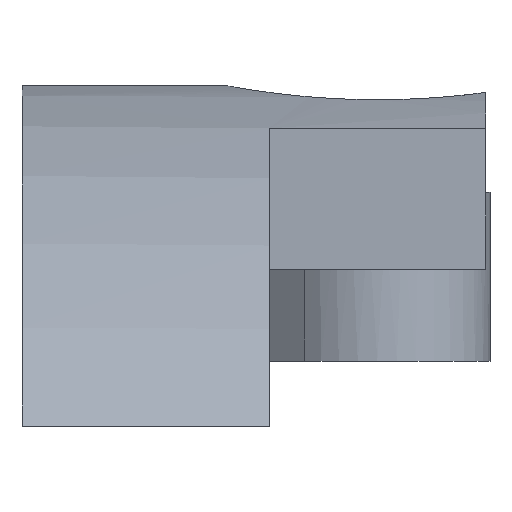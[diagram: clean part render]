
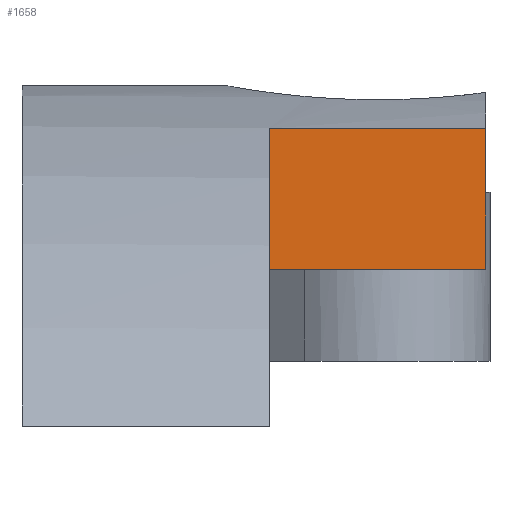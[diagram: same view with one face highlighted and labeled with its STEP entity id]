
A CAD part, front view. The second image highlights one B-rep face of the part: STEP entity #1658.
In plain terms, the highlighted planar face has unit normal (0, -1, 0).
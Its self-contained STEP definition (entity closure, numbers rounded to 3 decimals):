
#33 = CYLINDRICAL_SURFACE('',#34,18.85);
#34 = AXIS2_PLACEMENT_3D('',#35,#36,#37);
#35 = CARTESIAN_POINT('',(90.3,0.,0.));
#36 = DIRECTION('',(1.,0.,0.));
#37 = DIRECTION('',(-0.,0.,1.));
#84 = VERTEX_POINT('',#85);
#85 = CARTESIAN_POINT('',(96.,-6.,17.87));
#99 = PLANE('',#100);
#100 = AXIS2_PLACEMENT_3D('',#101,#102,#103);
#101 = CARTESIAN_POINT('',(96.,0.,0.));
#102 = DIRECTION('',(1.,0.,0.));
#103 = DIRECTION('',(-0.,0.,1.));
#111 = EDGE_CURVE('',#84,#112,#114,.T.);
#112 = VERTEX_POINT('',#113);
#113 = CARTESIAN_POINT('',(101.,-6.,17.87));
#114 = SURFACE_CURVE('',#115,(#119,#125),.PCURVE_S1.);
#115 = LINE('',#116,#117);
#116 = CARTESIAN_POINT('',(96.,-6.,17.87));
#117 = VECTOR('',#118,1.);
#118 = DIRECTION('',(1.,0.,0.));
#119 = PCURVE('',#33,#120);
#120 = DEFINITIONAL_REPRESENTATION('',(#121),#124);
#121 = B_SPLINE_CURVE_WITH_KNOTS('',1,(#122,#123),.UNSPECIFIED.,.F.,.F.,
  (2,2),(0.,5.),.PIECEWISE_BEZIER_KNOTS.);
#122 = CARTESIAN_POINT('',(6.607,5.7));
#123 = CARTESIAN_POINT('',(6.607,10.7));
#124 = ( GEOMETRIC_REPRESENTATION_CONTEXT(2) 
PARAMETRIC_REPRESENTATION_CONTEXT() REPRESENTATION_CONTEXT('2D SPACE',''
  ) );
#125 = PCURVE('',#126,#131);
#126 = PLANE('',#127);
#127 = AXIS2_PLACEMENT_3D('',#128,#129,#130);
#128 = CARTESIAN_POINT('',(96.,-6.,0.));
#129 = DIRECTION('',(-0.,1.,0.));
#130 = DIRECTION('',(0.,0.,1.));
#131 = DEFINITIONAL_REPRESENTATION('',(#132),#135);
#132 = B_SPLINE_CURVE_WITH_KNOTS('',1,(#133,#134),.UNSPECIFIED.,.F.,.F.,
  (2,2),(0.,5.),.PIECEWISE_BEZIER_KNOTS.);
#133 = CARTESIAN_POINT('',(17.87,0.));
#134 = CARTESIAN_POINT('',(17.87,5.));
#135 = ( GEOMETRIC_REPRESENTATION_CONTEXT(2) 
PARAMETRIC_REPRESENTATION_CONTEXT() REPRESENTATION_CONTEXT('2D SPACE',''
  ) );
#153 = PLANE('',#154);
#154 = AXIS2_PLACEMENT_3D('',#155,#156,#157);
#155 = CARTESIAN_POINT('',(101.,0.,0.));
#156 = DIRECTION('',(1.,0.,0.));
#157 = DIRECTION('',(-0.,0.,1.));
#600 = CYLINDRICAL_SURFACE('',#601,15.8);
#601 = AXIS2_PLACEMENT_3D('',#602,#603,#604);
#602 = CARTESIAN_POINT('',(89.3,0.,0.));
#603 = DIRECTION('',(1.,0.,0.));
#604 = DIRECTION('',(-0.,0.,1.));
#682 = VERTEX_POINT('',#683);
#683 = CARTESIAN_POINT('',(96.,-6.,14.616));
#704 = EDGE_CURVE('',#682,#705,#707,.T.);
#705 = VERTEX_POINT('',#706);
#706 = CARTESIAN_POINT('',(101.,-6.,14.616));
#707 = SURFACE_CURVE('',#708,(#712,#718),.PCURVE_S1.);
#708 = LINE('',#709,#710);
#709 = CARTESIAN_POINT('',(95.,-6.,14.616));
#710 = VECTOR('',#711,1.);
#711 = DIRECTION('',(1.,0.,0.));
#712 = PCURVE('',#600,#713);
#713 = DEFINITIONAL_REPRESENTATION('',(#714),#717);
#714 = B_SPLINE_CURVE_WITH_KNOTS('',1,(#715,#716),.UNSPECIFIED.,.F.,.F.,
  (2,2),(1.,6.),.PIECEWISE_BEZIER_KNOTS.);
#715 = CARTESIAN_POINT('',(6.673,6.7));
#716 = CARTESIAN_POINT('',(6.673,11.7));
#717 = ( GEOMETRIC_REPRESENTATION_CONTEXT(2) 
PARAMETRIC_REPRESENTATION_CONTEXT() REPRESENTATION_CONTEXT('2D SPACE',''
  ) );
#718 = PCURVE('',#126,#719);
#719 = DEFINITIONAL_REPRESENTATION('',(#720),#723);
#720 = B_SPLINE_CURVE_WITH_KNOTS('',1,(#721,#722),.UNSPECIFIED.,.F.,.F.,
  (2,2),(1.,6.),.PIECEWISE_BEZIER_KNOTS.);
#721 = CARTESIAN_POINT('',(14.616,0.));
#722 = CARTESIAN_POINT('',(14.616,5.));
#723 = ( GEOMETRIC_REPRESENTATION_CONTEXT(2) 
PARAMETRIC_REPRESENTATION_CONTEXT() REPRESENTATION_CONTEXT('2D SPACE',''
  ) );
#1634 = EDGE_CURVE('',#705,#112,#1635,.T.);
#1635 = SURFACE_CURVE('',#1636,(#1640,#1647),.PCURVE_S1.);
#1636 = LINE('',#1637,#1638);
#1637 = CARTESIAN_POINT('',(101.,-6.,0.));
#1638 = VECTOR('',#1639,1.);
#1639 = DIRECTION('',(0.,0.,1.));
#1640 = PCURVE('',#153,#1641);
#1641 = DEFINITIONAL_REPRESENTATION('',(#1642),#1646);
#1642 = LINE('',#1643,#1644);
#1643 = CARTESIAN_POINT('',(0.,6.));
#1644 = VECTOR('',#1645,1.);
#1645 = DIRECTION('',(1.,0.));
#1646 = ( GEOMETRIC_REPRESENTATION_CONTEXT(2) 
PARAMETRIC_REPRESENTATION_CONTEXT() REPRESENTATION_CONTEXT('2D SPACE',''
  ) );
#1647 = PCURVE('',#126,#1648);
#1648 = DEFINITIONAL_REPRESENTATION('',(#1649),#1653);
#1649 = LINE('',#1650,#1651);
#1650 = CARTESIAN_POINT('',(0.,5.));
#1651 = VECTOR('',#1652,1.);
#1652 = DIRECTION('',(1.,0.));
#1653 = ( GEOMETRIC_REPRESENTATION_CONTEXT(2) 
PARAMETRIC_REPRESENTATION_CONTEXT() REPRESENTATION_CONTEXT('2D SPACE',''
  ) );
#1658 = ADVANCED_FACE('',(#1659),#126,.F.);
#1659 = FACE_BOUND('',#1660,.F.);
#1660 = EDGE_LOOP('',(#1661,#1662,#1663,#1684));
#1661 = ORIENTED_EDGE('',*,*,#1634,.F.);
#1662 = ORIENTED_EDGE('',*,*,#704,.F.);
#1663 = ORIENTED_EDGE('',*,*,#1664,.T.);
#1664 = EDGE_CURVE('',#682,#84,#1665,.T.);
#1665 = SURFACE_CURVE('',#1666,(#1670,#1677),.PCURVE_S1.);
#1666 = LINE('',#1667,#1668);
#1667 = CARTESIAN_POINT('',(96.,-6.,0.));
#1668 = VECTOR('',#1669,1.);
#1669 = DIRECTION('',(0.,0.,1.));
#1670 = PCURVE('',#126,#1671);
#1671 = DEFINITIONAL_REPRESENTATION('',(#1672),#1676);
#1672 = LINE('',#1673,#1674);
#1673 = CARTESIAN_POINT('',(0.,0.));
#1674 = VECTOR('',#1675,1.);
#1675 = DIRECTION('',(1.,0.));
#1676 = ( GEOMETRIC_REPRESENTATION_CONTEXT(2) 
PARAMETRIC_REPRESENTATION_CONTEXT() REPRESENTATION_CONTEXT('2D SPACE',''
  ) );
#1677 = PCURVE('',#99,#1678);
#1678 = DEFINITIONAL_REPRESENTATION('',(#1679),#1683);
#1679 = LINE('',#1680,#1681);
#1680 = CARTESIAN_POINT('',(0.,6.));
#1681 = VECTOR('',#1682,1.);
#1682 = DIRECTION('',(1.,0.));
#1683 = ( GEOMETRIC_REPRESENTATION_CONTEXT(2) 
PARAMETRIC_REPRESENTATION_CONTEXT() REPRESENTATION_CONTEXT('2D SPACE',''
  ) );
#1684 = ORIENTED_EDGE('',*,*,#111,.T.);
